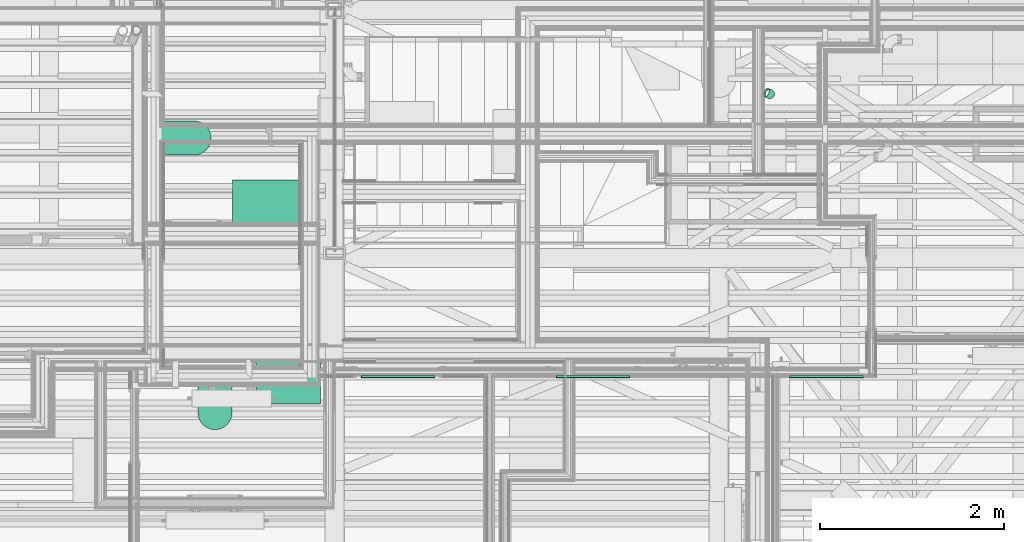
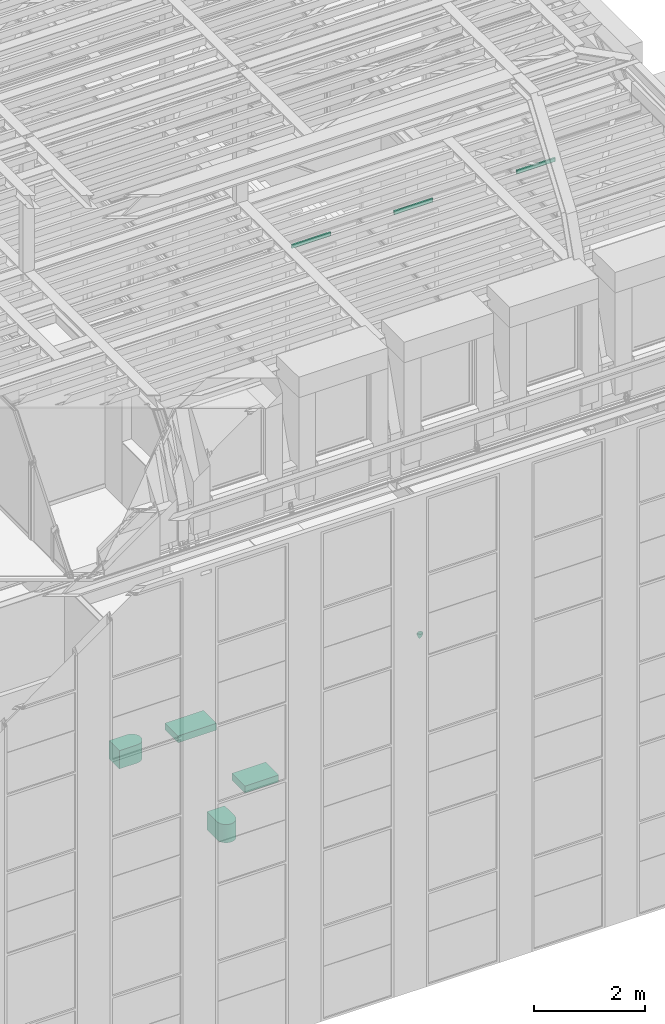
# One storey, part 175 of 183: 7 flow terminals, 1 flow fitting.
"""IFC2X3 building model written with IfcOpenShell, lengths in metres."""

from ifc_helpers import new_model, entity, si_unit, converted_unit, derived_unit, money_unit, direction, frame, origin_with_axes, place, context, subcontext, project, spatial, open_shell, faceted_brep, surface_model, material, type_object, element, save


model = new_model("IFC2X3")

# Units and contexts
model_context = context("Model", 3, precision=1e-05, world=origin_with_axes(), true_north=direction((0.0, 1.0)))
body_context = subcontext(model_context, "Body", "Model", "MODEL_VIEW", scale=1.0)
ifc_project = project(units=[si_unit("LENGTHUNIT", "METRE"), si_unit("AREAUNIT", "SQUARE_METRE"), si_unit("VOLUMEUNIT", "CUBIC_METRE"), si_unit("ABSORBEDDOSEUNIT", "GRAY"), si_unit("AMOUNTOFSUBSTANCEUNIT", "MOLE"), si_unit("DOSEEQUIVALENTUNIT", "SIEVERT"), si_unit("ELECTRICCAPACITANCEUNIT", "FARAD"), si_unit("ELECTRICCHARGEUNIT", "COULOMB"), si_unit("ELECTRICCONDUCTANCEUNIT", "SIEMENS"), si_unit("ELECTRICCURRENTUNIT", "AMPERE"), si_unit("ELECTRICRESISTANCEUNIT", "OHM"), si_unit("ELECTRICVOLTAGEUNIT", "VOLT"), si_unit("ENERGYUNIT", "JOULE"), si_unit("FORCEUNIT", "NEWTON"), si_unit("FREQUENCYUNIT", "HERTZ"), si_unit("ILLUMINANCEUNIT", "LUX"), si_unit("INDUCTANCEUNIT", "HENRY"), si_unit("LUMINOUSFLUXUNIT", "LUMEN"), si_unit("LUMINOUSINTENSITYUNIT", "CANDELA"), si_unit("MAGNETICFLUXDENSITYUNIT", "TESLA"), si_unit("MAGNETICFLUXUNIT", "WEBER"), si_unit("MASSUNIT", "GRAM"), converted_unit("PLANEANGLEUNIT", "degree", entity("IfcReal", 0.0174532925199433), si_unit("PLANEANGLEUNIT", "RADIAN"), dimensions=[0, 0, 0, 0, 0, 0, 0]), si_unit("POWERUNIT", "WATT"), si_unit("PRESSUREUNIT", "PASCAL"), si_unit("RADIOACTIVITYUNIT", "BECQUEREL"), si_unit("SOLIDANGLEUNIT", "STERADIAN"), si_unit("THERMODYNAMICTEMPERATUREUNIT", "KELVIN"), si_unit("TIMEUNIT", "SECOND"), derived_unit("ACCELERATIONUNIT", [(si_unit("LENGTHUNIT", "METRE"), 1), (si_unit("TIMEUNIT", "SECOND"), -2)]), derived_unit("ANGULARVELOCITYUNIT", [(converted_unit("PLANEANGLEUNIT", "degree", entity("IfcReal", 0.0174532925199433), si_unit("PLANEANGLEUNIT", "RADIAN"), dimensions=[0, 0, 0, 0, 0, 0, 0]), 1), (si_unit("TIMEUNIT", "SECOND"), -1)]), derived_unit("CURVATUREUNIT", [(converted_unit("PLANEANGLEUNIT", "degree", entity("IfcReal", 0.0174532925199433), si_unit("PLANEANGLEUNIT", "RADIAN"), dimensions=[0, 0, 0, 0, 0, 0, 0]), 1), (si_unit("LENGTHUNIT", "METRE"), -1)]), derived_unit("DYNAMICVISCOSITYUNIT", [(si_unit("PRESSUREUNIT", "PASCAL"), 1), (si_unit("TIMEUNIT", "SECOND"), 1)]), derived_unit("HEATFLUXDENSITYUNIT", [(si_unit("POWERUNIT", "WATT"), 1), (si_unit("LENGTHUNIT", "METRE"), -2)]), derived_unit("HEATINGVALUEUNIT", [(si_unit("ENERGYUNIT", "JOULE"), 1), (si_unit("MASSUNIT", "GRAM"), -1)]), derived_unit("INTEGERCOUNTRATEUNIT", [(si_unit("TIMEUNIT", "SECOND"), -1)]), derived_unit("IONCONCENTRATIONUNIT", [(si_unit("MASSUNIT", "GRAM"), 1), (si_unit("VOLUMEUNIT", "CUBIC_METRE"), -1)]), derived_unit("ISOTHERMALMOISTURECAPACITYUNIT", [(si_unit("VOLUMEUNIT", "CUBIC_METRE"), 1), (si_unit("MASSUNIT", "GRAM"), -1)]), derived_unit("KINEMATICVISCOSITYUNIT", [(si_unit("AREAUNIT", "SQUARE_METRE"), 1), (si_unit("TIMEUNIT", "SECOND"), -1)]), derived_unit("LINEARFORCEUNIT", [(si_unit("FORCEUNIT", "NEWTON"), 1), (si_unit("LENGTHUNIT", "METRE"), -1)]), derived_unit("LINEARMOMENTUNIT", [(si_unit("FORCEUNIT", "NEWTON"), 1), (si_unit("LENGTHUNIT", "METRE"), -1)]), derived_unit("LINEARSTIFFNESSUNIT", [(si_unit("FORCEUNIT", "NEWTON"), 1), (si_unit("LENGTHUNIT", "METRE"), -1)]), derived_unit("LINEARVELOCITYUNIT", [(si_unit("LENGTHUNIT", "METRE"), 1), (si_unit("TIMEUNIT", "SECOND"), -1)]), derived_unit("LUMINOUSINTENSITYDISTRIBUTIONUNIT", [(si_unit("LUMINOUSINTENSITYUNIT", "CANDELA"), 1), (si_unit("LUMINOUSFLUXUNIT", "LUMEN"), -1)]), derived_unit("MASSDENSITYUNIT", [(si_unit("MASSUNIT", "GRAM"), 1), (si_unit("VOLUMEUNIT", "CUBIC_METRE"), -1)]), derived_unit("MASSFLOWRATEUNIT", [(si_unit("MASSUNIT", "GRAM"), 1), (si_unit("TIMEUNIT", "SECOND"), -1)]), derived_unit("MASSPERLENGTHUNIT", [(si_unit("MASSUNIT", "GRAM"), 1), (si_unit("LENGTHUNIT", "METRE"), -1)]), derived_unit("MODULUSOFELASTICITYUNIT", [(si_unit("FORCEUNIT", "NEWTON"), 1), (si_unit("AREAUNIT", "SQUARE_METRE"), -1)]), derived_unit("MODULUSOFLINEARSUBGRADEREACTIONUNIT", [(si_unit("FORCEUNIT", "NEWTON"), 1), (si_unit("LENGTHUNIT", "METRE"), -2)]), derived_unit("MODULUSOFROTATIONALSUBGRADEREACTIONUNIT", [(si_unit("FORCEUNIT", "NEWTON"), 1), (si_unit("LENGTHUNIT", "METRE"), 1)]), derived_unit("MODULUSOFSUBGRADEREACTIONUNIT", [(si_unit("FORCEUNIT", "NEWTON"), 1), (si_unit("VOLUMEUNIT", "CUBIC_METRE"), -1)]), derived_unit("MOISTUREDIFFUSIVITYUNIT", [(si_unit("VOLUMEUNIT", "CUBIC_METRE"), 1), (si_unit("TIMEUNIT", "SECOND"), -1)]), derived_unit("MOLECULARWEIGHTUNIT", [(si_unit("MASSUNIT", "GRAM"), 1), (si_unit("AMOUNTOFSUBSTANCEUNIT", "MOLE"), -1)]), derived_unit("PLANARFORCEUNIT", [(si_unit("FORCEUNIT", "NEWTON"), 1), (si_unit("LENGTHUNIT", "METRE"), -2)]), derived_unit("ROTATIONALFREQUENCYUNIT", [(si_unit("TIMEUNIT", "SECOND"), -1)]), derived_unit("ROTATIONALMASSUNIT", [(si_unit("MASSUNIT", "GRAM"), 1), (si_unit("LENGTHUNIT", "METRE"), 2)]), derived_unit("ROTATIONALSTIFFNESSUNIT", [(si_unit("FORCEUNIT", "NEWTON"), 1), (si_unit("LENGTHUNIT", "METRE"), 1), (converted_unit("PLANEANGLEUNIT", "degree", entity("IfcReal", 0.0174532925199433), si_unit("PLANEANGLEUNIT", "RADIAN"), dimensions=[0, 0, 0, 0, 0, 0, 0]), -1)]), derived_unit("SECTIONAREAINTEGRALUNIT", [(si_unit("LENGTHUNIT", "METRE"), 5)]), derived_unit("SECTIONMODULUSUNIT", [(si_unit("LENGTHUNIT", "METRE"), 3)]), derived_unit("SHEARMODULUSUNIT", [(si_unit("FORCEUNIT", "NEWTON"), 1), (si_unit("AREAUNIT", "SQUARE_METRE"), -1)]), derived_unit("SOUNDPOWERUNIT", [(si_unit("ENERGYUNIT", "JOULE"), 1), (si_unit("TIMEUNIT", "SECOND"), -1)]), derived_unit("SPECIFICHEATCAPACITYUNIT", [(si_unit("FORCEUNIT", "NEWTON"), 1), (si_unit("MASSUNIT", "GRAM"), -1), (si_unit("THERMODYNAMICTEMPERATUREUNIT", "KELVIN"), -1)]), derived_unit("TEMPERATUREGRADIENTUNIT", [(si_unit("THERMODYNAMICTEMPERATUREUNIT", "KELVIN"), 1), (si_unit("LENGTHUNIT", "METRE"), -1)]), derived_unit("THERMALADMITTANCEUNIT", [(si_unit("POWERUNIT", "WATT"), 1), (si_unit("AREAUNIT", "SQUARE_METRE"), -1), (si_unit("THERMODYNAMICTEMPERATUREUNIT", "KELVIN"), -1)]), derived_unit("THERMALCONDUCTANCEUNIT", [(si_unit("POWERUNIT", "WATT"), 1), (si_unit("LENGTHUNIT", "METRE"), -1), (si_unit("THERMODYNAMICTEMPERATUREUNIT", "KELVIN"), -1)]), derived_unit("THERMALEXPANSIONCOEFFICIENTUNIT", [(si_unit("THERMODYNAMICTEMPERATUREUNIT", "KELVIN"), -1)]), derived_unit("THERMALRESISTANCEUNIT", [(si_unit("AREAUNIT", "SQUARE_METRE"), 1), (si_unit("POWERUNIT", "WATT"), -1)]), derived_unit("THERMALTRANSMITTANCEUNIT", [(si_unit("POWERUNIT", "WATT"), 1), (si_unit("AREAUNIT", "SQUARE_METRE"), -1), (si_unit("THERMODYNAMICTEMPERATUREUNIT", "KELVIN"), -1)]), derived_unit("TORQUEUNIT", [(si_unit("FORCEUNIT", "NEWTON"), 1), (si_unit("LENGTHUNIT", "METRE"), 1)]), derived_unit("VAPORPERMEABILITYUNIT", [(si_unit("MASSUNIT", "GRAM"), 1), (si_unit("TIMEUNIT", "SECOND"), -1)]), derived_unit("VOLUMETRICFLOWRATEUNIT", [(si_unit("VOLUMEUNIT", "CUBIC_METRE"), 1), (si_unit("TIMEUNIT", "SECOND"), -1)]), derived_unit("WARPINGCONSTANTUNIT", [(si_unit("LENGTHUNIT", "METRE"), 6)]), derived_unit("WARPINGMOMENTUNIT", [(si_unit("FORCEUNIT", "NEWTON"), 1), (si_unit("LENGTHUNIT", "METRE"), 2)]), money_unit("GBP")], contexts=[model_context])

# Site, building, storey, space
site_placement = place(None, origin_with_axes())
site = spatial("IfcSite", under=ifc_project, at=site_placement, Name="Site", CompositionType="ELEMENT")
building_placement = place(site_placement, origin_with_axes())
building = spatial("IfcBuilding", under=site, at=building_placement, Name="Building01", CompositionType="ELEMENT")
storey_placement = place(building_placement, frame((0.0, 0.0, 5.15), z_axis=(0.0, 0.0, 1.0), x_axis=(1.0, 0.0, 0.0)))
storey = spatial("IfcBuildingStorey", under=building, at=storey_placement, Name="1F", CompositionType="ELEMENT", Elevation=5.15)
space_1_placement = place(storey_placement, frame((22.740024, 4.817, 9.81), z_axis=(0.0, 0.0, 1.0), x_axis=(0.0, -1.0, 0.0)))
space_1 = spatial("IfcSpace", under=storey, at=space_1_placement, Name="3", CompositionType="ELEMENT", InteriorOrExteriorSpace="NOTDEFINED")

# Flow terminal
ifc_material_1 = material(Name="M_BSUK_Ventilation")
air_terminal_type = type_object("IfcAirTerminalType", Name="M-RectBarSlotsEndGrille-BarSlots", PredefinedType="REGISTER")
flow_terminal_1_placement = place(storey_placement, frame((23.265012, 4.817, 12.173), z_axis=(0.0, 0.0, 1.0), x_axis=(0.0, -1.0, 0.0)))
element("IfcFlowTerminal", 1, at=flow_terminal_1_placement, inside=space_1, type_object=air_terminal_type, material=ifc_material_1, Name="M-RectBarSlotsEndGrille-BarSlots", ObjectType="M-RectBarSlotsEndGrille-BarSlots", context=body_context, shape_type="SurfaceModel", body=[
    surface_model("IfcShellBasedSurfaceModel", [(0.02, -0.36, -0.0349), (0.02, -0.36, -0.036), (0.02, 0.36, -0.036), (0.02, 0.36, -0.0349), (0.02, -0.36, 0.036), (0.02, -0.36, 0.0349), (0.02, 0.36, 0.0349), (0.02, 0.36, 0.036), (0.02, -0.36, -0.0277), (0.02, -0.36, -0.0299), (0.02, 0.36, -0.0299), (0.02, 0.36, -0.0277), (0.02, -0.36, -0.0205), (0.02, -0.36, -0.0227), (0.02, 0.36, -0.0227), (0.02, 0.36, -0.0205), (0.02, -0.36, -0.0133), (0.02, -0.36, -0.0155), (0.02, 0.36, -0.0155), (0.02, 0.36, -0.0133), (0.02, -0.36, -0.0061), (0.02, -0.36, -0.0083), (0.02, 0.36, -0.0083), (0.02, 0.36, -0.0061), (0.02, -0.36, 0.0011), (0.02, -0.36, -0.0011), (0.02, 0.36, -0.0011), (0.02, 0.36, 0.0011), (0.02, -0.36, 0.0083), (0.02, -0.36, 0.0061), (0.02, 0.36, 0.0061), (0.02, 0.36, 0.0083), (0.02, -0.36, 0.0155), (0.02, -0.36, 0.0133), (0.02, 0.36, 0.0133), (0.02, 0.36, 0.0155), (0.02, -0.36, 0.0227), (0.02, -0.36, 0.0205), (0.02, 0.36, 0.0205), (0.02, 0.36, 0.0227), (0.02, -0.36, 0.0299), (0.02, -0.36, 0.0277), (0.02, 0.36, 0.0277), (0.02, 0.36, 0.0299), (0.02, -0.4, -0.04), (0.02, -0.4, 0.04), (0.0, -0.4, 0.04), (0.0, -0.4, -0.04), (0.02, 0.4, 0.04), (0.0, 0.4, 0.04), (0.02, 0.4, -0.04), (0.0, 0.4, -0.04)], [open_shell([[[0, 1, 2, 3]], [[4, 5, 6, 7]], [[8, 9, 10, 11]], [[12, 13, 14, 15]], [[16, 17, 18, 19]], [[20, 21, 22, 23]], [[24, 25, 26, 27]], [[28, 29, 30, 31]], [[32, 33, 34, 35]], [[36, 37, 38, 39]], [[40, 41, 42, 43]], [[44, 45, 46, 47]], [[45, 48, 49, 46]], [[50, 44, 47, 51]], [[48, 50, 51, 49]], [[44, 50, 48, 45], [7, 2, 1, 4]]])]),
])

# Space
space_2_placement = place(storey_placement, frame((17.73844, 7.349915, 9.81), z_axis=(0.0, 0.0, 1.0), x_axis=(0.0, -1.0, 0.0)))
space_2 = spatial("IfcSpace", under=storey, at=space_2_placement, Name="24", CompositionType="ELEMENT", InteriorOrExteriorSpace="NOTDEFINED")

# Flow terminals
for number, where, z_axis, x_axis, name in (
    (2, (20.719976, 4.817, 12.173), (0.0, 0.0, 1.0), (0.0, -1.0, 0.0), "M-RectBarSlotsEndGrille-BarSlots"),
    (3, (18.599976, 4.817, 12.173), (0.0, 0.0, 1.0), (0.0, -1.0, 0.0), "M-RectBarSlotsEndGrille-BarSlots"),
):
    element("IfcFlowTerminal", number, at=place(storey_placement, frame(where, z_axis=z_axis, x_axis=x_axis)), inside=space_2, type_object=air_terminal_type, material=ifc_material_1, Name=name, ObjectType="M-RectBarSlotsEndGrille-BarSlots", context=body_context, shape_type="SurfaceModel", body=[
        surface_model("IfcShellBasedSurfaceModel", [(0.02, -0.36, -0.0349), (0.02, -0.36, -0.036), (0.02, 0.36, -0.036), (0.02, 0.36, -0.0349), (0.02, -0.36, 0.036), (0.02, -0.36, 0.0349), (0.02, 0.36, 0.0349), (0.02, 0.36, 0.036), (0.02, -0.36, -0.0277), (0.02, -0.36, -0.0299), (0.02, 0.36, -0.0299), (0.02, 0.36, -0.0277), (0.02, -0.36, -0.0205), (0.02, -0.36, -0.0227), (0.02, 0.36, -0.0227), (0.02, 0.36, -0.0205), (0.02, -0.36, -0.0133), (0.02, -0.36, -0.0155), (0.02, 0.36, -0.0155), (0.02, 0.36, -0.0133), (0.02, -0.36, -0.0061), (0.02, -0.36, -0.0083), (0.02, 0.36, -0.0083), (0.02, 0.36, -0.0061), (0.02, -0.36, 0.0011), (0.02, -0.36, -0.0011), (0.02, 0.36, -0.0011), (0.02, 0.36, 0.0011), (0.02, -0.36, 0.0083), (0.02, -0.36, 0.0061), (0.02, 0.36, 0.0061), (0.02, 0.36, 0.0083), (0.02, -0.36, 0.0155), (0.02, -0.36, 0.0133), (0.02, 0.36, 0.0133), (0.02, 0.36, 0.0155), (0.02, -0.36, 0.0227), (0.02, -0.36, 0.0205), (0.02, 0.36, 0.0205), (0.02, 0.36, 0.0227), (0.02, -0.36, 0.0299), (0.02, -0.36, 0.0277), (0.02, 0.36, 0.0277), (0.02, 0.36, 0.0299), (0.02, -0.4, -0.04), (0.02, -0.4, 0.04), (0.0, -0.4, 0.04), (0.0, -0.4, -0.04), (0.02, 0.4, 0.04), (0.0, 0.4, 0.04), (0.02, 0.4, -0.04), (0.0, 0.4, -0.04)], [open_shell([[[0, 1, 2, 3]], [[4, 5, 6, 7]], [[8, 9, 10, 11]], [[12, 13, 14, 15]], [[16, 17, 18, 19]], [[20, 21, 22, 23]], [[24, 25, 26, 27]], [[28, 29, 30, 31]], [[32, 33, 34, 35]], [[36, 37, 38, 39]], [[40, 41, 42, 43]], [[44, 45, 46, 47]], [[45, 48, 49, 46]], [[50, 44, 47, 51]], [[48, 50, 51, 49]], [[44, 50, 48, 45], [7, 2, 1, 4]]])]),
    ])

# Space
space_3_placement = place(storey_placement, frame((20.122661, 5.205, 0.017975), z_axis=(0.0, 0.0, 1.0), x_axis=(1.0, 0.0, 0.0)))
space_3 = spatial("IfcSpace", under=storey, at=space_3_placement, Name="03", CompositionType="ELEMENT", InteriorOrExteriorSpace="NOTDEFINED")

# Flow fitting
ifc_material_2 = material(Name="M_BSUK_ColdWater")
pipe_fitting_type = type_object("IfcPipeFittingType", Name="M-BmpElbow-DefaultElbow", PredefinedType="BEND")
placement = place(building_placement, origin_with_axes())
flow_fitting_placement = place(placement, frame((22.609634, 7.898553, 5.347936), z_axis=(0.46267479, -0.18955747, -0.8660254), x_axis=(0.80137625, -0.32832317, 0.5)))
element("IfcFlowFitting", 4, at=flow_fitting_placement, inside=space_3, type_object=pipe_fitting_type, material=ifc_material_2, Name="M-BmpElbow-DefaultElbow", ObjectType="M-BmpElbow-DefaultElbow", context=body_context, shape_type="SurfaceModel", body=[
    surface_model("IfcShellBasedSurfaceModel", [(0.005531, -0.01349, -0.04863), (0.0, -0.01349, -0.048146), (0.0, 0.0, -0.05), (0.005209, 0.0, -0.050456), (0.010895, -0.01349, -0.050067), (0.010261, 0.0, -0.051809), (0.015927, -0.01349, -0.052414), (0.015, 0.0, -0.054019), (0.020475, -0.01349, -0.055598), (0.019284, 0.0, -0.057019), (0.024402, -0.01349, -0.059525), (0.022981, 0.0, -0.060716), (0.027586, -0.01349, -0.064073), (0.025981, 0.0, -0.065), (0.006473, -0.025979, -0.043287), (0.0, -0.025979, -0.042721), (0.01275, -0.025979, -0.044969), (0.01864, -0.025979, -0.047715), (0.023962, -0.025979, -0.051443), (0.028557, -0.025979, -0.056038), (0.032285, -0.025979, -0.06136), (0.007966, -0.036542, -0.034825), (0.0, -0.036542, -0.034128), (0.015689, -0.036542, -0.036894), (0.022936, -0.036542, -0.040273), (0.029486, -0.036542, -0.04486), (0.03514, -0.036542, -0.050514), (0.039727, -0.036542, -0.057064), (0.009897, -0.044394, -0.023869), (0.0, -0.044394, -0.023003), (0.019494, -0.044394, -0.026441), (0.028498, -0.044394, -0.030639), (0.036637, -0.044394, -0.036338), (0.043662, -0.044394, -0.043363), (0.049361, -0.044394, -0.051502), (0.012125, -0.048954, -0.011234), (0.0, -0.048954, -0.010173), (0.023882, -0.048954, -0.014384), (0.034914, -0.048954, -0.019528), (0.044884, -0.048954, -0.026509), (0.053491, -0.048954, -0.035116), (0.060472, -0.048954, -0.045086), (0.014484, -0.049883, 0.002145), (0.0, -0.049883, 0.003412), (0.028529, -0.049883, -0.001618), (0.041706, -0.049883, -0.007763), (0.053616, -0.049883, -0.016103), (0.063897, -0.049883, -0.026384), (0.072237, -0.049883, -0.038294), (0.016799, -0.047113, 0.015274), (0.0, -0.047113, 0.016744), (0.033088, -0.047113, 0.01091), (0.048372, -0.047113, 0.003783), (0.062186, -0.047113, -0.00589), (0.07411, -0.047113, -0.017814), (0.083783, -0.047113, -0.031628), (0.018899, -0.040848, 0.027181), (0.0, -0.040848, 0.028834), (0.037223, -0.040848, 0.022271), (0.054417, -0.040848, 0.014253), (0.069957, -0.040848, 0.003372), (0.083372, -0.040848, -0.010043), (0.094253, -0.040848, -0.025583), (0.020627, -0.031554, 0.036981), (0.0, -0.031554, 0.038786), (0.040627, -0.031554, 0.031622), (0.059393, -0.031554, 0.022871), (0.076354, -0.031554, 0.010995), (0.090995, -0.031554, -0.003646), (0.102871, -0.031554, -0.020607), (0.021855, -0.01992, 0.043948), (0.0, -0.01992, 0.045861), (0.043047, -0.01992, 0.03827), (0.06293, -0.01992, 0.028998), (0.080902, -0.01992, 0.016415), (0.096415, -0.01992, 0.000902), (0.108998, -0.01992, -0.01707), (0.022493, -0.006808, 0.047566), (0.0, -0.006808, 0.049534), (0.044303, -0.006808, 0.041722), (0.064767, -0.006808, 0.03218), (0.083263, -0.006808, 0.019229), (0.099229, -0.006808, 0.003263), (0.11218, -0.006808, -0.015233), (0.022493, 0.006808, 0.047566), (0.0, 0.006808, 0.049534), (0.044303, 0.006808, 0.041722), (0.064767, 0.006808, 0.03218), (0.083263, 0.006808, 0.019229), (0.099229, 0.006808, 0.003263), (0.11218, 0.006808, -0.015233), (0.021855, 0.01992, 0.043948), (0.0, 0.01992, 0.045861), (0.043047, 0.01992, 0.03827), (0.06293, 0.01992, 0.028998), (0.080902, 0.01992, 0.016415), (0.096415, 0.01992, 0.000902), (0.108998, 0.01992, -0.01707), (0.020627, 0.031554, 0.036981), (0.0, 0.031554, 0.038786), (0.040627, 0.031554, 0.031622), (0.059393, 0.031554, 0.022871), (0.076354, 0.031554, 0.010995), (0.090995, 0.031554, -0.003646), (0.102871, 0.031554, -0.020607), (0.018899, 0.040848, 0.027181), (0.0, 0.040848, 0.028834), (0.037223, 0.040848, 0.022271), (0.054417, 0.040848, 0.014253), (0.069957, 0.040848, 0.003372), (0.083372, 0.040848, -0.010043), (0.094253, 0.040848, -0.025583), (0.016799, 0.047113, 0.015274), (0.0, 0.047113, 0.016744), (0.033088, 0.047113, 0.01091), (0.048372, 0.047113, 0.003783), (0.062186, 0.047113, -0.00589), (0.07411, 0.047113, -0.017814), (0.083783, 0.047113, -0.031628), (0.014484, 0.049883, 0.002145), (0.0, 0.049883, 0.003412), (0.028529, 0.049883, -0.001618), (0.041706, 0.049883, -0.007763), (0.053616, 0.049883, -0.016103), (0.063897, 0.049883, -0.026384), (0.072237, 0.049883, -0.038294), (0.012125, 0.048954, -0.011234), (0.0, 0.048954, -0.010173), (0.023882, 0.048954, -0.014384), (0.034914, 0.048954, -0.019528), (0.044884, 0.048954, -0.026509), (0.053491, 0.048954, -0.035116), (0.060472, 0.048954, -0.045086), (0.009897, 0.044394, -0.023869), (0.0, 0.044394, -0.023003), (0.019494, 0.044394, -0.026441), (0.028498, 0.044394, -0.030639), (0.036637, 0.044394, -0.036338), (0.043662, 0.044394, -0.043363), (0.049361, 0.044394, -0.051502), (0.007966, 0.036542, -0.034825), (0.0, 0.036542, -0.034128), (0.015689, 0.036542, -0.036894), (0.022936, 0.036542, -0.040273), (0.029486, 0.036542, -0.04486), (0.03514, 0.036542, -0.050514), (0.039727, 0.036542, -0.057064), (0.006473, 0.025979, -0.043287), (0.0, 0.025979, -0.042721), (0.01275, 0.025979, -0.044969), (0.01864, 0.025979, -0.047715), (0.023962, 0.025979, -0.051443), (0.028557, 0.025979, -0.056038), (0.032285, 0.025979, -0.06136), (0.005531, 0.01349, -0.04863), (0.0, 0.01349, -0.048146), (0.010895, 0.01349, -0.050067), (0.015927, 0.01349, -0.052414), (0.020475, 0.01349, -0.055598), (0.024402, 0.01349, -0.059525), (0.027586, 0.01349, -0.064073)], [open_shell([[[0, 1, 2, 3]], [[4, 0, 3, 5]], [[6, 4, 5, 7]], [[8, 6, 7, 9]], [[10, 8, 9, 11]], [[12, 10, 11, 13]], [[14, 15, 1, 0]], [[16, 14, 0, 4]], [[17, 16, 4, 6]], [[18, 17, 6, 8]], [[19, 18, 8, 10]], [[20, 19, 10, 12]], [[21, 22, 15, 14]], [[23, 21, 14, 16]], [[24, 23, 16, 17]], [[25, 24, 17, 18]], [[26, 25, 18, 19]], [[27, 26, 19, 20]], [[28, 29, 22, 21]], [[30, 28, 21, 23]], [[31, 30, 23, 24]], [[32, 31, 24, 25]], [[33, 32, 25, 26]], [[34, 33, 26, 27]], [[35, 36, 29, 28]], [[37, 35, 28, 30]], [[38, 37, 30, 31]], [[39, 38, 31, 32]], [[40, 39, 32, 33]], [[41, 40, 33, 34]], [[42, 43, 36, 35]], [[44, 42, 35, 37]], [[45, 44, 37, 38]], [[46, 45, 38, 39]], [[47, 46, 39, 40]], [[48, 47, 40, 41]], [[49, 50, 43, 42]], [[51, 49, 42, 44]], [[52, 51, 44, 45]], [[53, 52, 45, 46]], [[54, 53, 46, 47]], [[55, 54, 47, 48]], [[56, 57, 50, 49]], [[58, 56, 49, 51]], [[59, 58, 51, 52]], [[60, 59, 52, 53]], [[61, 60, 53, 54]], [[62, 61, 54, 55]], [[63, 64, 57, 56]], [[65, 63, 56, 58]], [[66, 65, 58, 59]], [[67, 66, 59, 60]], [[68, 67, 60, 61]], [[69, 68, 61, 62]], [[70, 71, 64, 63]], [[72, 70, 63, 65]], [[73, 72, 65, 66]], [[74, 73, 66, 67]], [[75, 74, 67, 68]], [[76, 75, 68, 69]], [[77, 78, 71, 70]], [[79, 77, 70, 72]], [[80, 79, 72, 73]], [[81, 80, 73, 74]], [[82, 81, 74, 75]], [[83, 82, 75, 76]], [[84, 85, 78, 77]], [[86, 84, 77, 79]], [[87, 86, 79, 80]], [[88, 87, 80, 81]], [[89, 88, 81, 82]], [[90, 89, 82, 83]], [[91, 92, 85, 84]], [[93, 91, 84, 86]], [[94, 93, 86, 87]], [[95, 94, 87, 88]], [[96, 95, 88, 89]], [[97, 96, 89, 90]], [[98, 99, 92, 91]], [[100, 98, 91, 93]], [[101, 100, 93, 94]], [[102, 101, 94, 95]], [[103, 102, 95, 96]], [[104, 103, 96, 97]], [[105, 106, 99, 98]], [[107, 105, 98, 100]], [[108, 107, 100, 101]], [[109, 108, 101, 102]], [[110, 109, 102, 103]], [[111, 110, 103, 104]], [[112, 113, 106, 105]], [[114, 112, 105, 107]], [[115, 114, 107, 108]], [[116, 115, 108, 109]], [[117, 116, 109, 110]], [[118, 117, 110, 111]], [[119, 120, 113, 112]], [[121, 119, 112, 114]], [[122, 121, 114, 115]], [[123, 122, 115, 116]], [[124, 123, 116, 117]], [[125, 124, 117, 118]], [[126, 127, 120, 119]], [[128, 126, 119, 121]], [[129, 128, 121, 122]], [[130, 129, 122, 123]], [[131, 130, 123, 124]], [[132, 131, 124, 125]], [[133, 134, 127, 126]], [[135, 133, 126, 128]], [[136, 135, 128, 129]], [[137, 136, 129, 130]], [[138, 137, 130, 131]], [[139, 138, 131, 132]], [[140, 141, 134, 133]], [[142, 140, 133, 135]], [[143, 142, 135, 136]], [[144, 143, 136, 137]], [[145, 144, 137, 138]], [[146, 145, 138, 139]], [[147, 148, 141, 140]], [[149, 147, 140, 142]], [[150, 149, 142, 143]], [[151, 150, 143, 144]], [[152, 151, 144, 145]], [[153, 152, 145, 146]], [[154, 155, 148, 147]], [[156, 154, 147, 149]], [[157, 156, 149, 150]], [[158, 157, 150, 151]], [[159, 158, 151, 152]], [[160, 159, 152, 153]], [[3, 2, 155, 154]], [[5, 3, 154, 156]], [[7, 5, 156, 157]], [[9, 7, 157, 158]], [[11, 9, 158, 159]], [[13, 11, 159, 160]]])]),
])

# Space
space_4_placement = place(storey_placement, frame((15.83, 8.65, 0.017975), z_axis=(0.0, 0.0, 1.0), x_axis=(0.0, -1.0, 0.0)))
space_4 = spatial("IfcSpace", under=storey, at=space_4_placement, Name="bath", CompositionType="ELEMENT", InteriorOrExteriorSpace="NOTDEFINED")

# Flow terminals
sanitary_terminal_type_1 = type_object("IfcSanitaryTerminalType", Name="SHE_A-Sink_47x80", PredefinedType="NOTDEFINED")
flow_terminal_2_placement = place(storey_placement, frame((17.2, 6.71, 0.825), z_axis=(0.0, 0.0, 1.0), x_axis=(0.0, -1.0, 0.0)))
element("IfcFlowTerminal", 5, at=flow_terminal_2_placement, inside=space_4, type_object=sanitary_terminal_type_1, Name="02", ObjectType="SHE_A-Sink_47x80", context=body_context, shape_type="Brep", body=[
    faceted_brep([(-0.235, 0.4, -0.075), (-0.235, 0.4, 0.075), (0.235, 0.4, 0.075), (0.235, 0.4, -0.075), (-0.235, -0.4, -0.075), (-0.235, -0.4, 0.075), (0.235, -0.4, -0.075), (0.235, -0.4, 0.075)], [[[0, 1, 2, 3]], [[4, 5, 1, 0]], [[6, 7, 5, 4]], [[3, 2, 7, 6]], [[1, 5, 7, 2]], [[3, 6, 4, 0]]]),
])
sanitary_terminal_type_2 = type_object("IfcSanitaryTerminalType", Name="SHE_A-Toilet_base", PredefinedType="NOTDEFINED")
flow_terminal_3_placement = place(storey_placement, frame((16.290003, 7.40388, 0.2), z_axis=(0.0, 0.0, 1.0), x_axis=(1.0, 0.0, 0.0)))
element("IfcFlowTerminal", 6, at=flow_terminal_3_placement, inside=space_4, type_object=sanitary_terminal_type_2, Name="02", ObjectType="SHE_A-Toilet_base", context=body_context, shape_type="Brep", body=[
    faceted_brep([(0.089995, 0.185008, -0.2), (0.126088, 0.181454, -0.2), (0.160795, 0.170926, -0.2), (0.19278, 0.153829, -0.2), (0.220816, 0.130821, -0.2), (0.243824, 0.102785, -0.2), (0.26092, 0.0708, -0.2), (0.271448, 0.036093, -0.2), (0.275003, 0.0, -0.2), (0.271448, -0.036093, -0.2), (0.26092, -0.0708, -0.2), (0.243824, -0.102785, -0.2), (0.220816, -0.130821, -0.2), (0.19278, -0.153829, -0.2), (0.160795, -0.170926, -0.2), (0.126088, -0.181454, -0.2), (0.089995, -0.185009, -0.2), (-0.275003, -0.185009, -0.2), (-0.275003, 0.185008, -0.2), (-0.275003, 0.185008, 0.2), (-0.275003, -0.185009, 0.2), (0.089995, -0.185009, 0.2), (0.126088, -0.181454, 0.2), (0.160795, -0.170926, 0.2), (0.19278, -0.153829, 0.2), (0.220816, -0.130821, 0.2), (0.243824, -0.102785, 0.2), (0.26092, -0.0708, 0.2), (0.271448, -0.036093, 0.2), (0.275003, 0.0, 0.2), (0.271448, 0.036093, 0.2), (0.26092, 0.0708, 0.2), (0.243824, 0.102785, 0.2), (0.220816, 0.130821, 0.2), (0.19278, 0.153829, 0.2), (0.160795, 0.170926, 0.2), (0.126088, 0.181454, 0.2), (0.089995, 0.185008, 0.2)], [[[0, 1, 2, 3, 4, 5, 6, 7, 8, 9, 10, 11, 12, 13, 14, 15, 16, 17, 18]], [[19, 20, 21, 22, 23, 24, 25, 26, 27, 28, 29, 30, 31, 32, 33, 34, 35, 36, 37]], [[15, 22, 21, 16]], [[14, 23, 22, 15]], [[13, 24, 23, 14]], [[12, 25, 24, 13]], [[11, 26, 25, 12]], [[10, 27, 26, 11]], [[9, 28, 27, 10]], [[8, 29, 28, 9]], [[7, 30, 29, 8]], [[6, 31, 30, 7]], [[5, 32, 31, 6]], [[4, 33, 32, 5]], [[3, 34, 33, 4]], [[2, 35, 34, 3]], [[1, 36, 35, 2]], [[0, 37, 36, 1]], [[16, 21, 20, 17]], [[17, 20, 19, 18]], [[18, 19, 37, 0]]]),
])

# Space
space_5_placement = place(storey_placement, frame((14.85, 4.98, 0.017975), z_axis=(0.0, 0.0, 1.0), x_axis=(0.0, -1.0, 0.0)))
space_5 = spatial("IfcSpace", under=storey, at=space_5_placement, Name="04", CompositionType="ELEMENT", InteriorOrExteriorSpace="NOTDEFINED")

# Flow terminal
flow_terminal_4_placement = place(storey_placement, frame((16.607508, 4.504997, 0.2), z_axis=(0.0, 0.0, 1.0), x_axis=(0.0, 1.0, 0.0)))
element("IfcFlowTerminal", 7, at=flow_terminal_4_placement, inside=space_5, type_object=sanitary_terminal_type_2, Name="04", ObjectType="SHE_A-Toilet_base", context=body_context, shape_type="Brep", body=[
    faceted_brep([(0.275003, 0.185008, -0.2), (0.275003, -0.185009, -0.2), (-0.089995, -0.185009, -0.2), (-0.126088, -0.181454, -0.2), (-0.160795, -0.170926, -0.2), (-0.19278, -0.153829, -0.2), (-0.220816, -0.130821, -0.2), (-0.243824, -0.102785, -0.2), (-0.26092, -0.0708, -0.2), (-0.271448, -0.036093, -0.2), (-0.275003, 0.0, -0.2), (-0.271448, 0.036093, -0.2), (-0.26092, 0.0708, -0.2), (-0.243824, 0.102785, -0.2), (-0.220816, 0.130821, -0.2), (-0.19278, 0.153829, -0.2), (-0.160795, 0.170926, -0.2), (-0.126088, 0.181454, -0.2), (-0.089995, 0.185008, -0.2), (-0.089995, 0.185008, 0.2), (-0.126088, 0.181454, 0.2), (-0.160795, 0.170926, 0.2), (-0.19278, 0.153829, 0.2), (-0.220816, 0.130821, 0.2), (-0.243824, 0.102785, 0.2), (-0.26092, 0.0708, 0.2), (-0.271448, 0.036093, 0.2), (-0.275003, 0.0, 0.2), (-0.271448, -0.036093, 0.2), (-0.26092, -0.0708, 0.2), (-0.243824, -0.102785, 0.2), (-0.220816, -0.130821, 0.2), (-0.19278, -0.153829, 0.2), (-0.160795, -0.170926, 0.2), (-0.126088, -0.181454, 0.2), (-0.089995, -0.185009, 0.2), (0.275003, -0.185009, 0.2), (0.275003, 0.185008, 0.2)], [[[0, 1, 2, 3, 4, 5, 6, 7, 8, 9, 10, 11, 12, 13, 14, 15, 16, 17, 18]], [[19, 20, 21, 22, 23, 24, 25, 26, 27, 28, 29, 30, 31, 32, 33, 34, 35, 36, 37]], [[2, 35, 34, 3]], [[3, 34, 33, 4]], [[4, 33, 32, 5]], [[5, 32, 31, 6]], [[6, 31, 30, 7]], [[7, 30, 29, 8]], [[8, 29, 28, 9]], [[9, 28, 27, 10]], [[10, 27, 26, 11]], [[11, 26, 25, 12]], [[12, 25, 24, 13]], [[13, 24, 23, 14]], [[14, 23, 22, 15]], [[15, 22, 21, 16]], [[16, 21, 20, 17]], [[17, 20, 19, 18]], [[1, 36, 35, 2]], [[0, 37, 36, 1]], [[18, 19, 37, 0]]]),
])

# Space
space_6_placement = place(storey_placement, frame((17.8075, 4.98, 0.017975), z_axis=(0.0, 0.0, 1.0), x_axis=(-1.0, 0.0, 0.0)))
space_6 = spatial("IfcSpace", under=storey, at=space_6_placement, Name="bath", CompositionType="ELEMENT", InteriorOrExteriorSpace="NOTDEFINED")

# Flow terminal
sanitary_terminal_type_3 = type_object("IfcSanitaryTerminalType", Name="SHE_A-Sink_47x70", PredefinedType="NOTDEFINED")
flow_terminal_5_placement = place(storey_placement, frame((17.4075, 4.745, 0.825), z_axis=(0.0, 0.0, 1.0), x_axis=(0.0, -1.0, 0.0)))
element("IfcFlowTerminal", 8, at=flow_terminal_5_placement, inside=space_6, type_object=sanitary_terminal_type_3, Name="04", ObjectType="SHE_A-Sink_47x70", context=body_context, shape_type="Brep", body=[
    faceted_brep([(-0.235, 0.35, -0.075), (-0.235, 0.35, 0.075), (0.235, 0.35, 0.075), (0.235, 0.35, -0.075), (0.235, -0.35, 0.075), (0.235, -0.35, -0.075), (-0.235, -0.35, 0.075), (-0.235, -0.35, -0.075)], [[[0, 1, 2, 3]], [[3, 2, 4, 5]], [[5, 4, 6, 7]], [[7, 6, 1, 0]], [[1, 6, 4, 2]], [[3, 5, 7, 0]]]),
])

save(model, "model.ifc")
